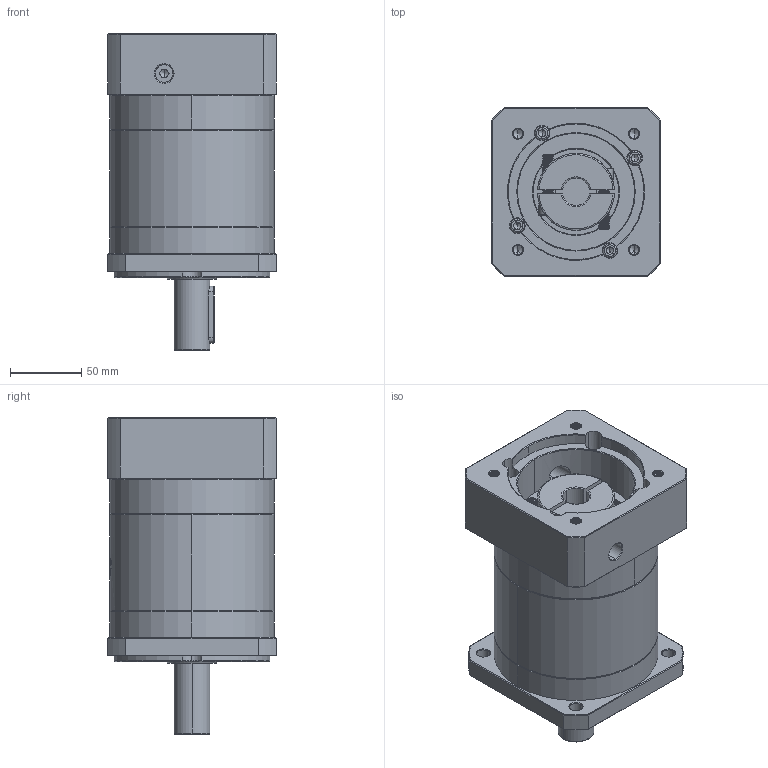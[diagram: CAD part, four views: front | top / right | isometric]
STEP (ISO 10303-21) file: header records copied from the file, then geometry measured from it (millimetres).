
FILE_DESCRIPTION (( 'STEP AP214' ), '1' );
FILE_NAME ('ZF120A-D25-L2-P2-19-95-115-M8.step', '2023-08-27T04:40:02', ( '' ), ( '' ), 'SwSTEP 2.0', 'SolidWorks 2016', '' );
FILE_SCHEMA (( 'AUTOMOTIVE_DESIGN' ));
Length unit declared in the file: millimetre
Products named in the file (1): ZF120A-D25-L2-P2-19-95-115-M8
Bounding box: 118 x 118 x 222 mm (x, y, z)
Volume: 1758840 mm3; surface area: 176463.6 mm2
Topology: 6 solids, 6 shells, 2242 faces, 5987 edges, 3846 vertices
Faces by surface type: plane 1034, bspline 439, cylinder 429, cone 340
Entity records: 123826 total; most frequent: CARTESIAN_POINT 48741, ORIENTED_EDGE 11914, DIRECTION 8635, EDGE_CURVE 5957, VERTEX_POINT 3846, LINE 3107, VECTOR 3107, AXIS2_PLACEMENT_3D 2764
